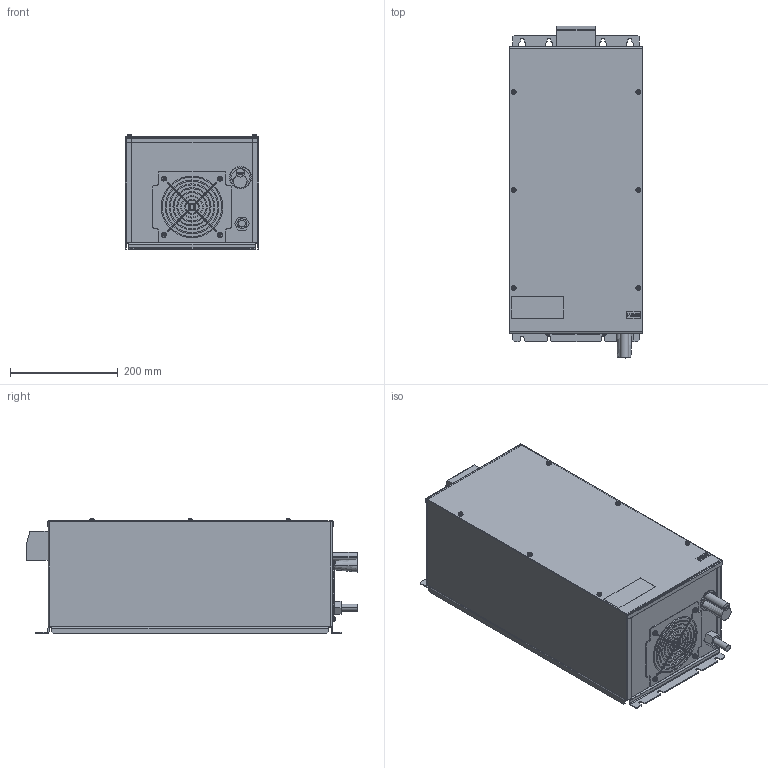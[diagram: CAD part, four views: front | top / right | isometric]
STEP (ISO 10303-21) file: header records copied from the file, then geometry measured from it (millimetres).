
FILE_DESCRIPTION (( 'STEP AP214' ), '1' );
FILE_NAME ('24H6J4F-1000.STEP', '2010-12-09T11:27:34', ( 'KEB' ), ( 'Karl E. Brinkmann GmbH' ), 'SwSTEP 2.0', 'SolidWorks 2007', '' );
FILE_SCHEMA (( 'AUTOMOTIVE_DESIGN' ));
Length unit declared in the file: millimetre
Products named in the file (1): 24H6J4F-1000
Bounding box: 249 x 617.5 x 213.79 mm (x, y, z)
Volume: 1076719.3 mm3; surface area: 1309014.6 mm2
Topology: 28 solids, 28 shells, 914 faces, 2384 edges, 1516 vertices
Faces by surface type: plane 492, cylinder 246, torus 122, cone 20, sphere 20, bspline 14
Entity records: 39882 total; most frequent: CARTESIAN_POINT 6399, DIRECTION 5044, ORIENTED_EDGE 4768, EDGE_CURVE 2384, AXIS2_PLACEMENT_3D 1877, VERTEX_POINT 1516, VECTOR 1290, LINE 1290
